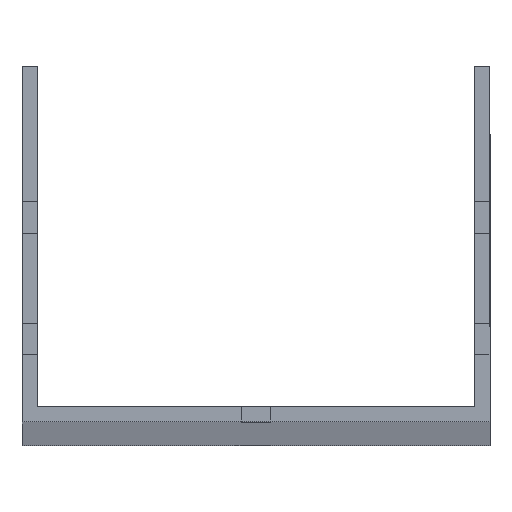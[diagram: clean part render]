
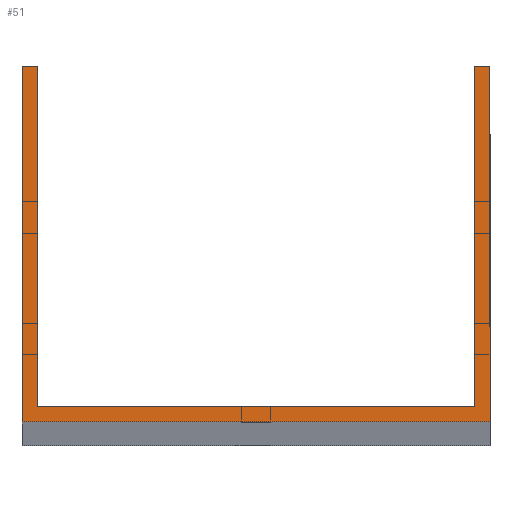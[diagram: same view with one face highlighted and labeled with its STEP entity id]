
A CAD part, top view. The second image highlights one B-rep face of the part: STEP entity #51.
In plain terms, the highlighted planar face has unit normal (0, 0, 1).
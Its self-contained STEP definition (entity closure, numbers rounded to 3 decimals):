
#37 = CARTESIAN_POINT ( 'NONE',  ( -48.5, 3.5, 1500. ) ) ;
#51 = ADVANCED_FACE ( 'NONE', ( #160 ), #179, .T. ) ;
#58 = ORIENTED_EDGE ( 'NONE', *, *, #571, .T. ) ;
#110 = CARTESIAN_POINT ( 'NONE',  ( -52., 0., 1500. ) ) ;
#113 = EDGE_CURVE ( 'NONE', #1045, #1400, #1618, .T. ) ;
#160 = FACE_OUTER_BOUND ( 'NONE', #1571, .T. ) ;
#179 = PLANE ( 'NONE',  #1260 ) ;
#220 = VECTOR ( 'NONE', #845, 1000. ) ;
#222 = CARTESIAN_POINT ( 'NONE',  ( -52., 79., 1500. ) ) ;
#256 = VERTEX_POINT ( 'NONE', #110 ) ;
#281 = VERTEX_POINT ( 'NONE', #903 ) ;
#293 = LINE ( 'NONE', #1451, #822 ) ;
#294 = DIRECTION ( 'NONE',  ( 0., 0., 1. ) ) ;
#333 = ORIENTED_EDGE ( 'NONE', *, *, #1152, .T. ) ;
#334 = CARTESIAN_POINT ( 'NONE',  ( 52., 79., 1500. ) ) ;
#349 = CARTESIAN_POINT ( 'NONE',  ( -52., 3.5, 1500. ) ) ;
#351 = LINE ( 'NONE', #334, #607 ) ;
#355 = ORIENTED_EDGE ( 'NONE', *, *, #1508, .T. ) ;
#398 = ORIENTED_EDGE ( 'NONE', *, *, #1118, .F. ) ;
#457 = EDGE_CURVE ( 'NONE', #256, #1003, #293, .T. ) ;
#460 = CARTESIAN_POINT ( 'NONE',  ( 52., 0., 1500. ) ) ;
#464 = CARTESIAN_POINT ( 'NONE',  ( -48.5, 79., 1500. ) ) ;
#481 = DIRECTION ( 'NONE',  ( 1., 0., 0. ) ) ;
#487 = DIRECTION ( 'NONE',  ( -1., 0., 0. ) ) ;
#500 = DIRECTION ( 'NONE',  ( 0., -1., 0. ) ) ;
#569 = CARTESIAN_POINT ( 'NONE',  ( 0., 0., 1500. ) ) ;
#571 = EDGE_CURVE ( 'NONE', #1003, #1446, #351, .T. ) ;
#579 = VECTOR ( 'NONE', #500, 1000. ) ;
#607 = VECTOR ( 'NONE', #1381, 1000. ) ;
#610 = CARTESIAN_POINT ( 'NONE',  ( -48.5, 79., 1500. ) ) ;
#638 = CARTESIAN_POINT ( 'NONE',  ( -52., 79., 1500. ) ) ;
#681 = DIRECTION ( 'NONE',  ( 1., 0., 0. ) ) ;
#822 = VECTOR ( 'NONE', #1441, 1000. ) ;
#826 = CARTESIAN_POINT ( 'NONE',  ( 52., 79., 1500. ) ) ;
#842 = VERTEX_POINT ( 'NONE', #1317 ) ;
#845 = DIRECTION ( 'NONE',  ( 0., -1., 0. ) ) ;
#847 = VECTOR ( 'NONE', #481, 1000. ) ;
#873 = LINE ( 'NONE', #1391, #1424 ) ;
#881 = VECTOR ( 'NONE', #487, 1000. ) ;
#892 = LINE ( 'NONE', #349, #847 ) ;
#903 = CARTESIAN_POINT ( 'NONE',  ( 48.5, 79., 1500. ) ) ;
#939 = ORIENTED_EDGE ( 'NONE', *, *, #113, .F. ) ;
#1003 = VERTEX_POINT ( 'NONE', #460 ) ;
#1021 = DIRECTION ( 'NONE',  ( 0., 1., 0. ) ) ;
#1045 = VERTEX_POINT ( 'NONE', #610 ) ;
#1103 = ORIENTED_EDGE ( 'NONE', *, *, #1162, .T. ) ;
#1118 = EDGE_CURVE ( 'NONE', #1400, #842, #892, .T. ) ;
#1152 = EDGE_CURVE ( 'NONE', #1499, #256, #1655, .T. ) ;
#1162 = EDGE_CURVE ( 'NONE', #1446, #281, #1284, .T. ) ;
#1184 = VECTOR ( 'NONE', #1537, 1000. ) ;
#1260 = AXIS2_PLACEMENT_3D ( 'NONE', #569, #294, #681 ) ;
#1284 = LINE ( 'NONE', #638, #1184 ) ;
#1317 = CARTESIAN_POINT ( 'NONE',  ( 48.5, 3.5, 1500. ) ) ;
#1332 = ORIENTED_EDGE ( 'NONE', *, *, #1671, .F. ) ;
#1381 = DIRECTION ( 'NONE',  ( 0., 1., 0. ) ) ;
#1391 = CARTESIAN_POINT ( 'NONE',  ( 48.5, 79., 1500. ) ) ;
#1398 = LINE ( 'NONE', #1628, #881 ) ;
#1400 = VERTEX_POINT ( 'NONE', #37 ) ;
#1424 = VECTOR ( 'NONE', #1021, 1000. ) ;
#1441 = DIRECTION ( 'NONE',  ( 1., 0., 0. ) ) ;
#1446 = VERTEX_POINT ( 'NONE', #826 ) ;
#1451 = CARTESIAN_POINT ( 'NONE',  ( -52., 0., 1500. ) ) ;
#1499 = VERTEX_POINT ( 'NONE', #1646 ) ;
#1508 = EDGE_CURVE ( 'NONE', #1045, #1499, #1398, .T. ) ;
#1537 = DIRECTION ( 'NONE',  ( -1., 0., 0. ) ) ;
#1571 = EDGE_LOOP ( 'NONE', ( #939, #355, #333, #1662, #58, #1103, #1332, #398 ) ) ;
#1618 = LINE ( 'NONE', #464, #220 ) ;
#1628 = CARTESIAN_POINT ( 'NONE',  ( -52., 79., 1500. ) ) ;
#1646 = CARTESIAN_POINT ( 'NONE',  ( -52., 79., 1500. ) ) ;
#1655 = LINE ( 'NONE', #222, #579 ) ;
#1662 = ORIENTED_EDGE ( 'NONE', *, *, #457, .T. ) ;
#1671 = EDGE_CURVE ( 'NONE', #842, #281, #873, .T. ) ;
